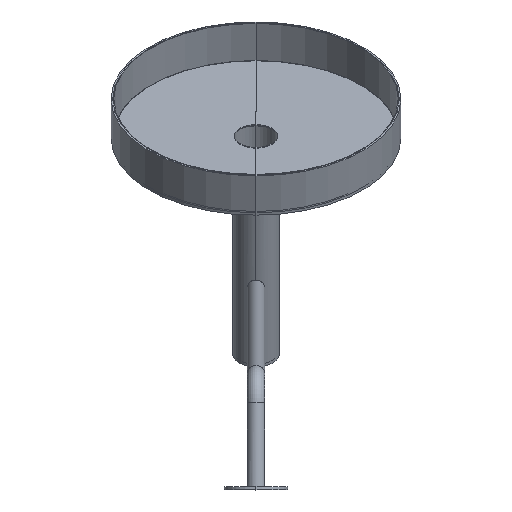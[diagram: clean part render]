
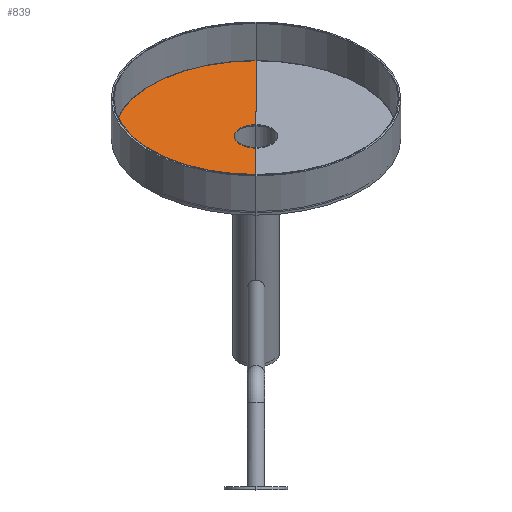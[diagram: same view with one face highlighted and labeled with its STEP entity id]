
A CAD part, front view. The second image highlights one B-rep face of the part: STEP entity #839.
In plain terms, the highlighted planar face has unit normal (0, -0.531, 0.848) as drawn and (0, 0.531, 0.848) by its records, which use the part's own axes.
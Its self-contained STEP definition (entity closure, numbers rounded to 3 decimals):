
#54=CIRCLE('',#921,18.498);
#57=CIRCLE('',#926,122.698);
#91=PLANE('',#925);
#130=FACE_OUTER_BOUND('',#187,.T.);
#187=EDGE_LOOP('',(#657,#658,#659,#660));
#268=LINE('',#1645,#324);
#269=LINE('',#1648,#325);
#324=VECTOR('',#1117,304.8);
#325=VECTOR('',#1120,304.8);
#380=VERTEX_POINT('',#1635);
#381=VERTEX_POINT('',#1637);
#382=VERTEX_POINT('',#1644);
#383=VERTEX_POINT('',#1646);
#472=EDGE_CURVE('',#381,#380,#54,.T.);
#476=EDGE_CURVE('',#382,#380,#268,.T.);
#477=EDGE_CURVE('',#383,#382,#57,.T.);
#478=EDGE_CURVE('',#381,#383,#269,.T.);
#657=ORIENTED_EDGE('',*,*,#472,.T.);
#658=ORIENTED_EDGE('',*,*,#476,.F.);
#659=ORIENTED_EDGE('',*,*,#477,.F.);
#660=ORIENTED_EDGE('',*,*,#478,.F.);
#839=ADVANCED_FACE('',(#130),#91,.T.);
#921=AXIS2_PLACEMENT_3D('',#1638,#1106,#1107);
#925=AXIS2_PLACEMENT_3D('',#1643,#1115,#1116);
#926=AXIS2_PLACEMENT_3D('',#1647,#1118,#1119);
#1106=DIRECTION('center_axis',(0.,-0.531,
-0.848));
#1107=DIRECTION('ref_axis',(0.,0.848,-0.531));
#1115=DIRECTION('center_axis',(0.,0.531,
0.848));
#1116=DIRECTION('ref_axis',(0.,0.848,-0.531));
#1117=DIRECTION('',(0.,0.848,-0.531));
#1118=DIRECTION('center_axis',(0.,-0.531,
-0.848));
#1119=DIRECTION('ref_axis',(0.,0.848,-0.531));
#1120=DIRECTION('',(0.,0.848,-0.531));
#1635=CARTESIAN_POINT('',(0.,-161.508,315.138));
#1637=CARTESIAN_POINT('',(0.,-130.151,295.506));
#1638=CARTESIAN_POINT('Origin',(0.,-145.83,
305.322));
#1643=CARTESIAN_POINT('Origin',(0.,-145.83,
305.322));
#1644=CARTESIAN_POINT('',(0.,-249.827,370.432));
#1645=CARTESIAN_POINT('',(0.,-249.827,370.433));
#1646=CARTESIAN_POINT('',(0.,-41.832,240.212));
#1647=CARTESIAN_POINT('Origin',(0.,-145.83,
305.322));
#1648=CARTESIAN_POINT('',(0.,-130.151,295.506));
